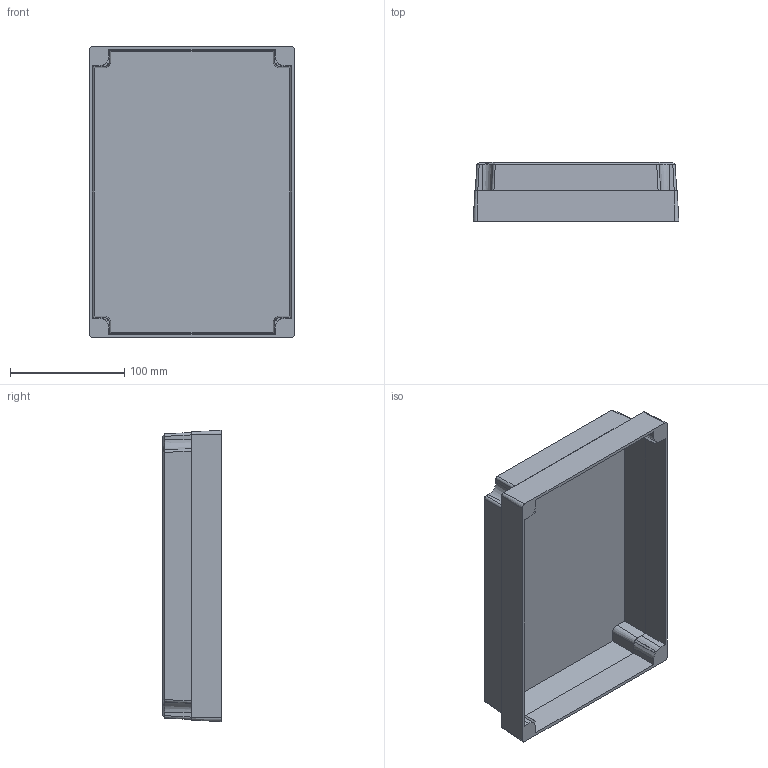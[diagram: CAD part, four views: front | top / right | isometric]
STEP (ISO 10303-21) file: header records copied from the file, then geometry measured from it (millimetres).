
FILE_DESCRIPTION (( 'STEP AP203' ), '1' );
FILE_NAME ('FIBOX_MNX20050C.STEP', '2005-06-30T06:42:59', ( ' ' ), ( ' ' ), 'SwSTEP 2.0', 'SolidWorks 2005143', '' );
FILE_SCHEMA (( 'CONFIG_CONTROL_DESIGN' ));
Length unit declared in the file: millimetre
Products named in the file (1): FIBOX_MNX20050C
Bounding box: 180 x 51.6 x 255 mm (x, y, z)
Volume: 188247.7 mm3; surface area: 173655.1 mm2
Topology: 1 solids, 1 shells, 119 faces, 320 edges, 210 vertices
Faces by surface type: plane 73, cone 24, cylinder 20, bspline 2
Entity records: 6836 total; most frequent: CARTESIAN_POINT 3841, ORIENTED_EDGE 640, DIRECTION 568, EDGE_CURVE 320, VERTEX_POINT 210, AXIS2_PLACEMENT_3D 194, VECTOR 180, LINE 180
